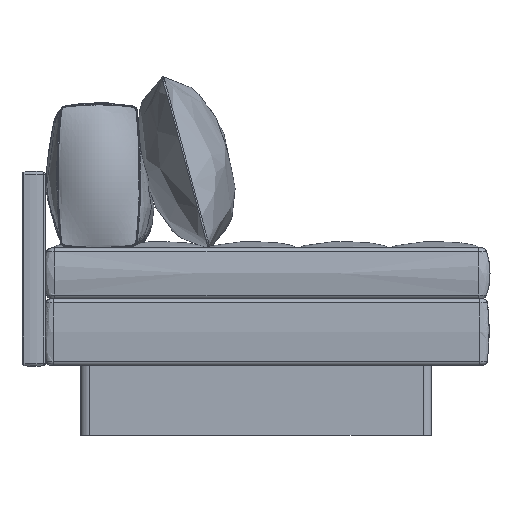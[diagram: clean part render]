
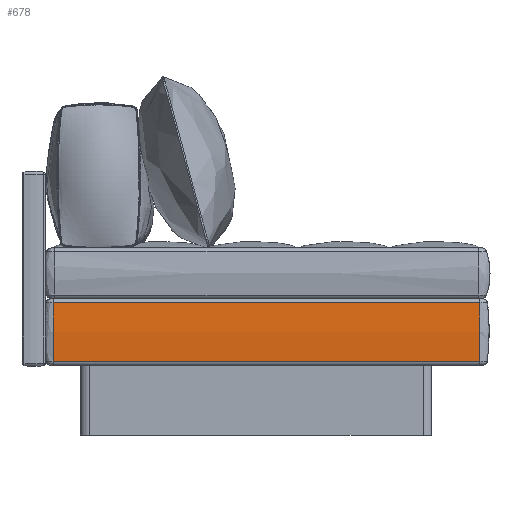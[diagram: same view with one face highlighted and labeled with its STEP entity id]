
A CAD part, left-side view. The second image highlights one B-rep face of the part: STEP entity #678.
In plain terms, the highlighted free-form (B-spline) face has degree [2, 1] with [9, 2] control points.
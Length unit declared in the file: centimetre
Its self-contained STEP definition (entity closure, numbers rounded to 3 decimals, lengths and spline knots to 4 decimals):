
#225=(
BOUNDED_CURVE()
B_SPLINE_CURVE(1,(#34845,#34846),.UNSPECIFIED.,.F.,.F.)
B_SPLINE_CURVE_WITH_KNOTS((2,2),(0.,73.7),.UNSPECIFIED.)
CURVE()
GEOMETRIC_REPRESENTATION_ITEM()
RATIONAL_B_SPLINE_CURVE((1.,1.))
REPRESENTATION_ITEM('')
);
#233=(
BOUNDED_CURVE()
B_SPLINE_CURVE(2,(#34930,#34931,#34932),.UNSPECIFIED.,.F.,.F.)
B_SPLINE_CURVE_WITH_KNOTS((3,3),(0.,12.6965),.UNSPECIFIED.)
CURVE()
GEOMETRIC_REPRESENTATION_ITEM()
RATIONAL_B_SPLINE_CURVE((1.,0.996,1.))
REPRESENTATION_ITEM('')
);
#234=(
BOUNDED_CURVE()
B_SPLINE_CURVE(2,(#34933,#34934,#34935),.UNSPECIFIED.,.F.,.F.)
B_SPLINE_CURVE_WITH_KNOTS((3,3),(0.,12.6965),.UNSPECIFIED.)
CURVE()
GEOMETRIC_REPRESENTATION_ITEM()
RATIONAL_B_SPLINE_CURVE((1.,0.996,1.))
REPRESENTATION_ITEM('')
);
#235=(
BOUNDED_CURVE()
B_SPLINE_CURVE(1,(#34936,#34937),.UNSPECIFIED.,.F.,.F.)
B_SPLINE_CURVE_WITH_KNOTS((2,2),(0.,73.7),.UNSPECIFIED.)
CURVE()
GEOMETRIC_REPRESENTATION_ITEM()
RATIONAL_B_SPLINE_CURVE((1.,1.))
REPRESENTATION_ITEM('')
);
#367=(
BOUNDED_SURFACE()
B_SPLINE_SURFACE(2,1,((#33942,#33943),(#33944,#33945),(#33946,#33947),(#33948,
#33949),(#33950,#33951),(#33952,#33953),(#33954,#33955),(#33956,#33957),
(#33958,#33959)),.UNSPECIFIED.,.T.,.F.,.F.)
B_SPLINE_SURFACE_WITH_KNOTS((3,2,2,2,3),(2,2),(0.,110.2306,220.4613,
330.6919,440.9225),(0.,88.464),.UNSPECIFIED.)
GEOMETRIC_REPRESENTATION_ITEM()
RATIONAL_B_SPLINE_SURFACE(((1.,1.),(0.707,0.707),
(1.,1.),(0.707,0.707),(1.,1.),(0.707,
0.707),(1.,1.),(0.707,0.707),(1.,1.)))
REPRESENTATION_ITEM('')
SURFACE()
);
#678=ADVANCED_FACE('',(#865),#367,.T.);
#865=FACE_OUTER_BOUND('',#1052,.T.);
#1052=EDGE_LOOP('',(#1607,#1608,#1609,#1610));
#1607=ORIENTED_EDGE('',*,*,#2229,.F.);
#1608=ORIENTED_EDGE('',*,*,#2220,.F.);
#1609=ORIENTED_EDGE('',*,*,#2230,.T.);
#1610=ORIENTED_EDGE('',*,*,#2231,.T.);
#2220=EDGE_CURVE('',#2864,#2862,#225,.T.);
#2229=EDGE_CURVE('',#2862,#2869,#233,.T.);
#2230=EDGE_CURVE('',#2864,#2870,#234,.T.);
#2231=EDGE_CURVE('',#2870,#2869,#235,.T.);
#2862=VERTEX_POINT('',#34336);
#2864=VERTEX_POINT('',#34338);
#2869=VERTEX_POINT('',#34343);
#2870=VERTEX_POINT('',#34344);
#33942=CARTESIAN_POINT('',(112.3927,53.3265,22.7));
#33943=CARTESIAN_POINT('',(112.3927,-57.8265,22.7));
#33944=CARTESIAN_POINT('',(112.3927,53.3265,92.875));
#33945=CARTESIAN_POINT('',(112.3927,-57.8265,92.875));
#33946=CARTESIAN_POINT('',(42.2823,53.3265,92.875));
#33947=CARTESIAN_POINT('',(42.2823,-57.8265,92.875));
#33948=CARTESIAN_POINT('',(-27.8281,53.3265,92.875));
#33949=CARTESIAN_POINT('',(-27.8281,-57.8265,92.875));
#33950=CARTESIAN_POINT('',(-27.8281,53.3265,22.7));
#33951=CARTESIAN_POINT('',(-27.8281,-57.8265,22.7));
#33952=CARTESIAN_POINT('',(-27.8281,53.3265,-47.475));
#33953=CARTESIAN_POINT('',(-27.8281,-57.8265,-47.475));
#33954=CARTESIAN_POINT('',(42.2823,53.3265,-47.475));
#33955=CARTESIAN_POINT('',(42.2823,-57.8265,-47.475));
#33956=CARTESIAN_POINT('',(112.3927,53.3265,-47.475));
#33957=CARTESIAN_POINT('',(112.3927,-57.8265,-47.475));
#33958=CARTESIAN_POINT('',(112.3927,53.3265,22.7));
#33959=CARTESIAN_POINT('',(112.3927,-57.8265,22.7));
#34336=CARTESIAN_POINT('',(-27.567,-48.5512,28.7508));
#34338=CARTESIAN_POINT('',(-27.567,44.0512,28.7508));
#34343=CARTESIAN_POINT('',(-27.5179,-48.5512,16.106));
#34344=CARTESIAN_POINT('',(-27.5179,44.0512,16.106));
#34845=CARTESIAN_POINT('',(-27.567,44.0512,28.7508));
#34846=CARTESIAN_POINT('',(-27.567,-48.5512,28.7508));
#34930=CARTESIAN_POINT('',(-27.567,-48.5512,28.7508));
#34931=CARTESIAN_POINT('',(-28.1138,-48.5512,22.4262));
#34932=CARTESIAN_POINT('',(-27.5179,-48.5512,16.106));
#34933=CARTESIAN_POINT('',(-27.567,44.0512,28.7508));
#34934=CARTESIAN_POINT('',(-28.1138,44.0512,22.4262));
#34935=CARTESIAN_POINT('',(-27.5179,44.0512,16.106));
#34936=CARTESIAN_POINT('',(-27.5179,44.0512,16.106));
#34937=CARTESIAN_POINT('',(-27.5179,-48.5512,16.106));
